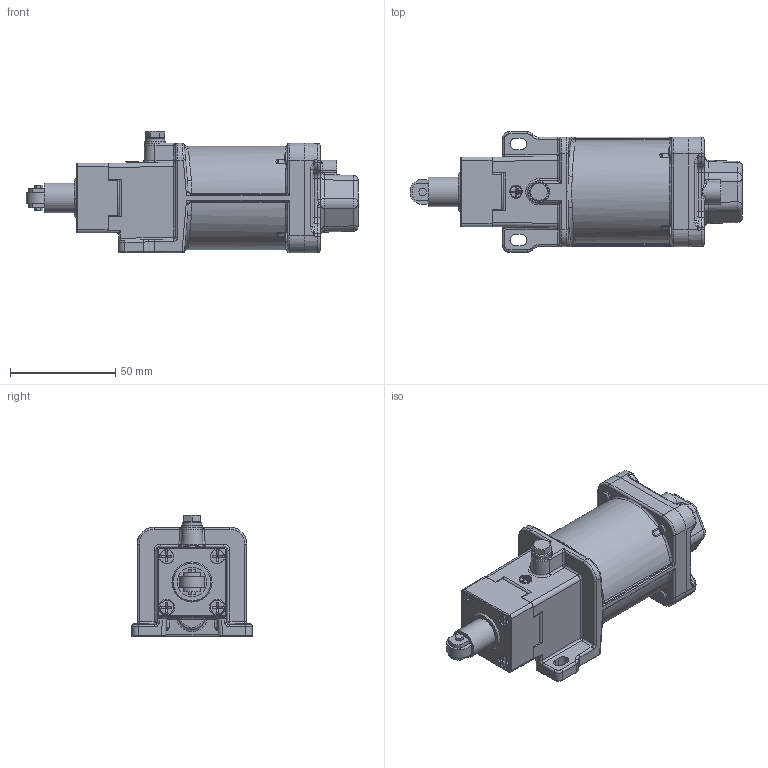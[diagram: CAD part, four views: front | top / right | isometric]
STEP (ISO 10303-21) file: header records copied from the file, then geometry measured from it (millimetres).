
FILE_DESCRIPTION((''),'2;1');
FILE_NAME('\\192.168.5.25\cortem_klient\INVENTOR БАЗА МОДЕЛЕЙ\Актуальная база моделей для отдела продаж\ДВГ-КВ\ДВГ-КВ-E13К1_М20х1,5.stp','2020-02-27T15:09:41',('K.S.Bezzubikov'),(''),'Autodesk Inventor 2012','Autodesk Inventor 2012','');
FILE_SCHEMA(('AUTOMOTIVE_DESIGN { 1 0 10303 214 1 1 1 1 }'));
Length unit declared in the file: millimetre
Products named in the file (1): ДВГ-КВ-E13К1_М20х1,5_Внешний контур_1
Bounding box: 157.4 x 57 x 57.7 mm (x, y, z)
Volume: 142896.7 mm3; surface area: 71524 mm2
Topology: 1 solids, 18 shells, 1613 faces, 3855 edges, 2285 vertices
Faces by surface type: plane 676, cylinder 425, bspline 304, torus 112, cone 80, sphere 16
Full cylindrical faces by diameter (mm): 1.76 x1, 2.51 x1, 3 x1, 3.2 x1, 3.7 x1, 3.76 x1, 4.1 x1, 4.567 x1, 4.988 x8, 5 x5, 5.2 x4, 5.3 x1, 5.4 x5, 6 x1, 6.5 x1, 6.7 x1, 8.4 x1, 8.5 x4, 9.5 x4, 10 x1, 14 x1, 16 x1, 18.4 x1, 22 x1, 24.6 x1, 28.5 x1, 36.2 x1, 41.94 x1, 42 x1, 45.6 x1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
Entity records: 65191 total; most frequent: CARTESIAN_POINT 28679, ORIENTED_EDGE 7336, DIRECTION 6915, EDGE_CURVE 3668, AXIS2_PLACEMENT_3D 2530, VERTEX_POINT 2250, VECTOR 1855, LINE 1855
